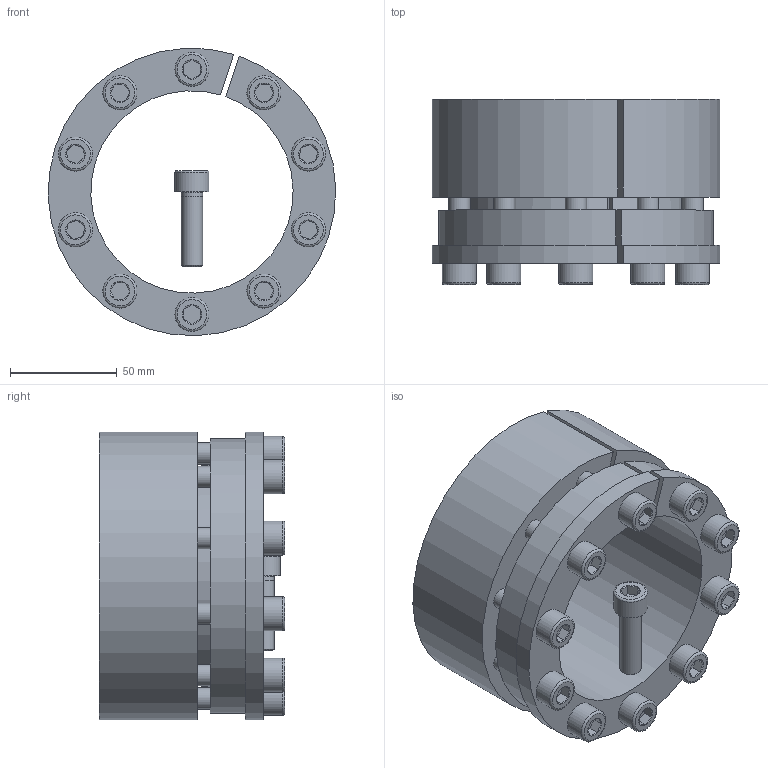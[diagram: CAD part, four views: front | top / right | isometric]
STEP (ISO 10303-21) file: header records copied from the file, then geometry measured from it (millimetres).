
FILE_DESCRIPTION( ( 'Unknown' ), '1' );
FILE_NAME( 'C:/Dokumente und Einstellungen/Sven/Desktop/homepage/cad - homepage/KBS70/KBS 70 - 95 x 135.stp', 'Unknown', ( 'Unknown' ), ( 'Unknown' ), 'XStep 1.0', 'Unknown', ' ' );
FILE_SCHEMA( ( 'automotive_design' ) );
Length unit declared in the file: millimetre
Products named in the file (3): Assem1; KBS 70 - 95 x 135; ISO EN DIN 4762 M10x35
Bounding box: 134.92 x 87 x 134.87 mm (x, y, z)
Volume: 929934.4 mm3; surface area: 228284.4 mm2
Topology: 13 solids, 13 shells, 343 faces, 703 edges, 430 vertices
Faces by surface type: plane 148, cylinder 92, cone 81, torus 22
Full cylindrical faces by diameter (mm): 9 x11, 10 x62, 16 x11
Entity records: 1990 total; most frequent: CARTESIAN_POINT 327, DIRECTION 312, ORIENTED_EDGE 222, AXIS2_PLACEMENT_3D 140, EDGE_LOOP 130, EDGE_CURVE 111, VERTEX_POINT 87, FACE_OUTER_BOUND 85
